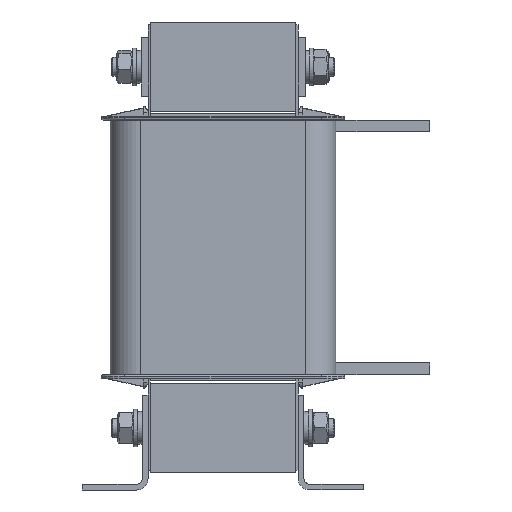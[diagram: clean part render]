
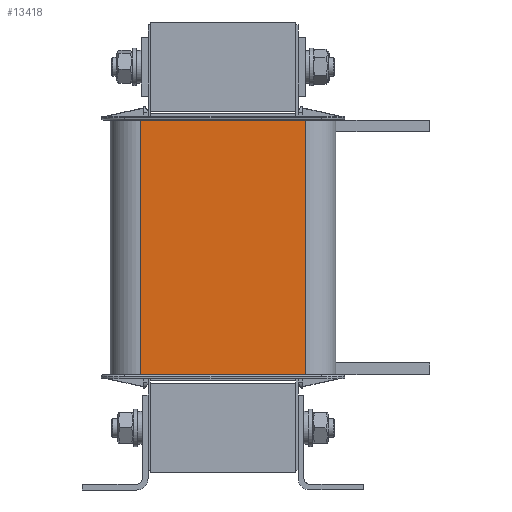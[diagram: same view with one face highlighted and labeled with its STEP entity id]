
A CAD part, left-side view. The second image highlights one B-rep face of the part: STEP entity #13418.
In plain terms, the highlighted planar face has unit normal (-1, 0, 0).
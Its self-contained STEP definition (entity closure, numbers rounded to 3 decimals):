
#12956=CARTESIAN_POINT('',(-111.55,-35.1,-54.3));
#12957=VERTEX_POINT('',#12956);
#12984=CARTESIAN_POINT('',(-111.55,-35.1,54.3));
#12985=VERTEX_POINT('',#12984);
#12993=CARTESIAN_POINT('',(-111.55,-35.1,54.3));
#12994=DIRECTION('',(0.0,0.0,-1.0));
#12995=VECTOR('',#12994,108.6);
#12996=LINE('',#12993,#12995);
#12997=EDGE_CURVE('',#12985,#12957,#12996,.T.);
#13213=CARTESIAN_POINT('',(-111.55,35.1,-54.3));
#13214=VERTEX_POINT('',#13213);
#13222=CARTESIAN_POINT('',(-111.55,35.1,54.3));
#13223=VERTEX_POINT('',#13222);
#13224=CARTESIAN_POINT('',(-111.55,35.1,-54.3));
#13225=DIRECTION('',(0.0,0.0,1.0));
#13226=VECTOR('',#13225,108.6);
#13227=LINE('',#13224,#13226);
#13228=EDGE_CURVE('',#13214,#13223,#13227,.T.);
#13397=CARTESIAN_POINT('',(-111.55,48.1,0.));
#13398=DIRECTION('',(-1.0,0.0,0.0));
#13399=DIRECTION('',(0.0,0.0,-1.0));
#13400=AXIS2_PLACEMENT_3D('',#13397,#13398,#13399);
#13401=PLANE('',#13400);
#13402=ORIENTED_EDGE('',*,*,#12997,.F.);
#13403=CARTESIAN_POINT('',(-111.55,35.1,54.3));
#13404=DIRECTION('',(0.0,-1.0,0.0));
#13405=VECTOR('',#13404,70.2);
#13406=LINE('',#13403,#13405);
#13407=EDGE_CURVE('',#13223,#12985,#13406,.T.);
#13408=ORIENTED_EDGE('',*,*,#13407,.F.);
#13409=ORIENTED_EDGE('',*,*,#13228,.F.);
#13410=CARTESIAN_POINT('',(-111.55,-35.1,-54.3));
#13411=DIRECTION('',(0.0,1.0,0.0));
#13412=VECTOR('',#13411,70.2);
#13413=LINE('',#13410,#13412);
#13414=EDGE_CURVE('',#12957,#13214,#13413,.T.);
#13415=ORIENTED_EDGE('',*,*,#13414,.F.);
#13416=EDGE_LOOP('',(#13402,#13408,#13409,#13415));
#13417=FACE_OUTER_BOUND('',#13416,.T.);
#13418=ADVANCED_FACE('',(#13417),#13401,.T.);
